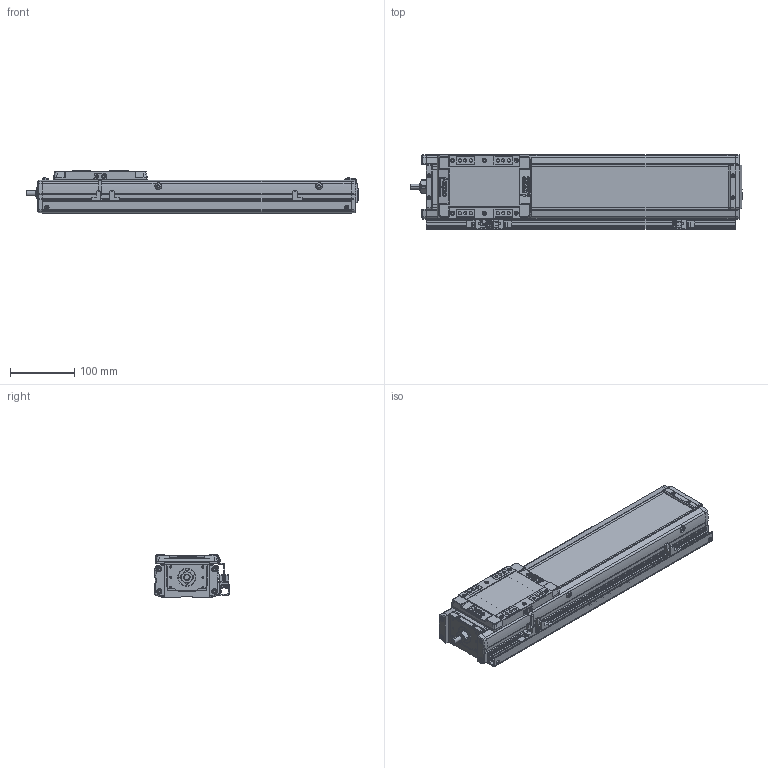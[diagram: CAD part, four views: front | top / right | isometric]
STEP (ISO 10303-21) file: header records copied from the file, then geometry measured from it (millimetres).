
FILE_DESCRIPTION(('STEP AP214'),'1');
FILE_NAME('Z:/Web/3D/SAN100/SAN100 양산용 (STEP)/SAN100ㅁㅁ-300+3SR.stp','2013-04-25T06:38:35',(' '),(' '),'Spatial InterOp 3D',' ',' ');
FILE_SCHEMA(('automotive_design'));
Length unit declared in the file: millimetre
Products named in the file (52): EE-SX674; SBK-SX674-352; 스크루 : Round - M3.0 x 6.0; M3.0 x 6.0; SRL-16x17-380L; SGD-SAN100; 너트 : Square - M10.0 x 220.7419; RR1500-000L; 스크루 : Round - M4.0 x 10.0; FRCV-SAN100; SUS COVER; SFX-SAN100; RRCV-SAN100; FRBL-SAN100; SLBL-SAN100; SLCV-SAN100; 스크루 : Countersunk - M3.0 x 6.0; BASE; 스크루 : Round - M5.0 x 6.0
Bounding box: 516 x 116 x 66 mm (x, y, z)
Volume: 1488805.5 mm3; surface area: 441139.8 mm2
Topology: 52 solids, 53 shells, 2431 faces, 6322 edges, 4093 vertices
Faces by surface type: plane 1320, cylinder 799, cone 210, sphere 64, torus 26, bspline 12
Entity records: 95789 total; most frequent: CARTESIAN_POINT 14316, DIRECTION 13273, ORIENTED_EDGE 12488, EDGE_CURVE 6244, AXIS2_PLACEMENT_3D 4679, VERTEX_POINT 4093, LINE 3915, VECTOR 3915
